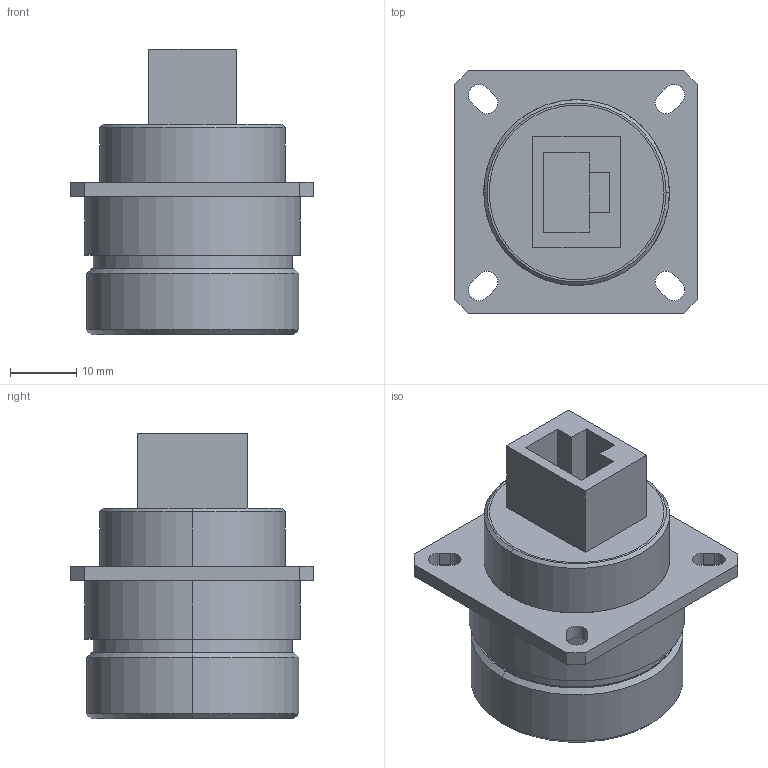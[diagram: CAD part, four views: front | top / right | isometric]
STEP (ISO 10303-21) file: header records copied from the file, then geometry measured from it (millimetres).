
FILE_DESCRIPTION(/* description */ ('VariCAD 2010-1.04 AP-203'),/* implementation_level */ '2;1');
FILE_NAME(/* name */ '0353-01-40',/* time_stamp */ '2010-01-25T18:10:06-07:00',/* author */ (''),/* organization */ (''),/* preprocessor_version */ 'ST-DEVELOPER v12',/* originating_system */ 'VariCAD 2010-1.04; kernel version (20090520)',/* authorisation */ '');
FILE_SCHEMA (('CONFIG_CONTROL_DESIGN'));
Length unit declared in the file: millimetre
Products named in the file (1): Part
Bounding box: 36.53 x 36.53 x 43.1 mm (x, y, z)
Volume: 25012.9 mm3; surface area: 11126.4 mm2
Topology: 3 solids, 3 shells, 92 faces, 220 edges, 144 vertices
Faces by surface type: plane 62, cylinder 24, cone 6
Entity records: 2774 total; most frequent: CARTESIAN_POINT 506, DIRECTION 464, ORIENTED_EDGE 440, EDGE_CURVE 220, LINE 164, VECTOR 164, AXIS2_PLACEMENT_3D 150, VERTEX_POINT 144
